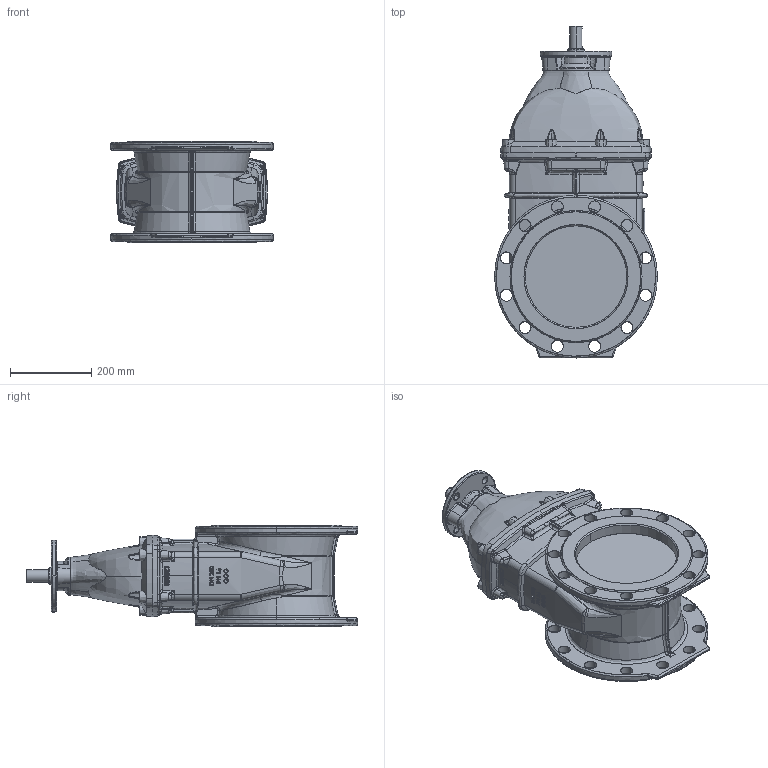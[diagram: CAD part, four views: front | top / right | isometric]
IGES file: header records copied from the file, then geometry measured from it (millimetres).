
Start section: SolidWorks IGES file using analytic representation for surfaces
Global section: file name: C:\outline drawing\15-42\1525042016\1525042016.IGS; native system: SolidWorks 2008; preprocessor: SolidWorks 2008; author: ch_xmm; date: 100923.121834; units: millimetre
Bounding box: 400 x 817 x 250 mm (x, y, z)
Surface area: 1097894.6 mm2 (no closed solid volume)
Topology: 0 solids, 0 shells, 1676 faces, 21779 edges, 21713 vertices
Faces by surface type: bspline 1296, revolution 380
